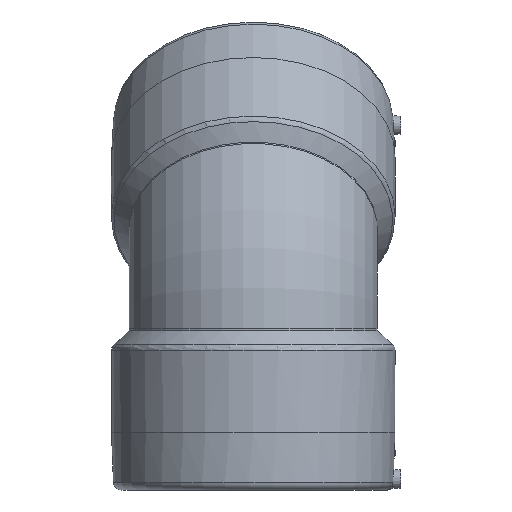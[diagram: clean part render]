
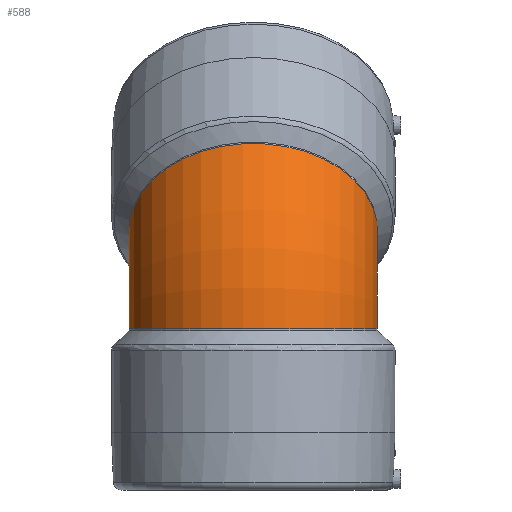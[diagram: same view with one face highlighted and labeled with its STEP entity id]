
A CAD part, left-side view. The second image highlights one B-rep face of the part: STEP entity #588.
In plain terms, the highlighted toroidal (fillet/blend) face has major radius 149.681 mm and minor radius 135 mm.
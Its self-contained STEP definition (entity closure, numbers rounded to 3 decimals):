
#22=TOROIDAL_SURFACE('',#659,149.681,135.);
#121=ORIENTED_EDGE('',*,*,#265,.F.);
#122=ORIENTED_EDGE('',*,*,#264,.F.);
#123=ORIENTED_EDGE('',*,*,#266,.T.);
#124=ORIENTED_EDGE('',*,*,#267,.T.);
#264=EDGE_CURVE('',#339,#337,#387,.F.);
#265=EDGE_CURVE('',#337,#340,#388,.F.);
#266=EDGE_CURVE('',#339,#341,#389,.F.);
#267=EDGE_CURVE('',#341,#340,#390,.F.);
#337=VERTEX_POINT('',#1004);
#339=VERTEX_POINT('',#1008);
#340=VERTEX_POINT('',#1012);
#341=VERTEX_POINT('',#1014);
#387=CIRCLE('',#658,135.);
#388=CIRCLE('',#660,15.82);
#389=CIRCLE('',#661,15.82);
#390=CIRCLE('',#662,135.);
#436=EDGE_LOOP('',(#121,#122,#123,#124));
#509=FACE_BOUND('',#436,.T.);
#588=ADVANCED_FACE('',(#509),#22,.T.);
#658=AXIS2_PLACEMENT_3D('',#1009,#769,#770);
#659=AXIS2_PLACEMENT_3D('',#1010,#771,#772);
#660=AXIS2_PLACEMENT_3D('',#1011,#773,#774);
#661=AXIS2_PLACEMENT_3D('',#1013,#775,#776);
#662=AXIS2_PLACEMENT_3D('',#1015,#777,#778);
#769=DIRECTION('',(-0.707,0.,-0.707));
#770=DIRECTION('',(0.707,0.,-0.707));
#771=DIRECTION('',(0.,1.,0.));
#772=DIRECTION('',(0.,0.,1.));
#773=DIRECTION('',(0.,1.,0.));
#774=DIRECTION('',(0.,0.,1.));
#775=DIRECTION('',(0.,1.,0.));
#776=DIRECTION('',(0.,0.,1.));
#777=DIRECTION('',(0.,0.,-1.));
#778=DIRECTION('',(1.,0.,0.));
#1004=CARTESIAN_POINT('',(138.495,-17.5,-50.813));
#1008=CARTESIAN_POINT('',(138.495,17.5,-50.813));
#1009=CARTESIAN_POINT('',(43.841,0.,43.841));
#1010=CARTESIAN_POINT('',(149.681,0.,-62.));
#1011=CARTESIAN_POINT('',(149.681,-17.5,-62.));
#1012=CARTESIAN_POINT('',(133.861,-17.5,-62.));
#1013=CARTESIAN_POINT('',(149.681,17.5,-62.));
#1014=CARTESIAN_POINT('',(133.861,17.5,-62.));
#1015=CARTESIAN_POINT('',(0.,0.,-62.));
